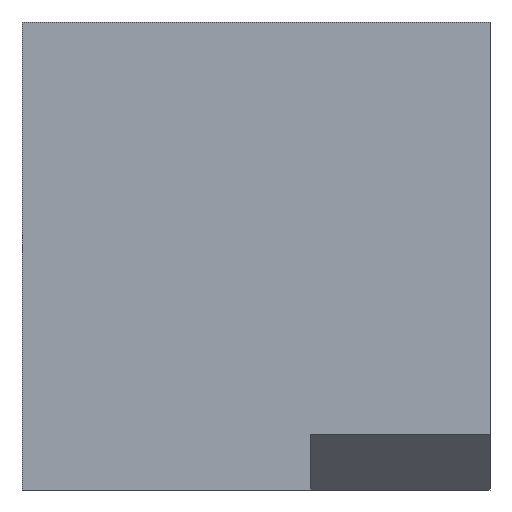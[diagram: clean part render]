
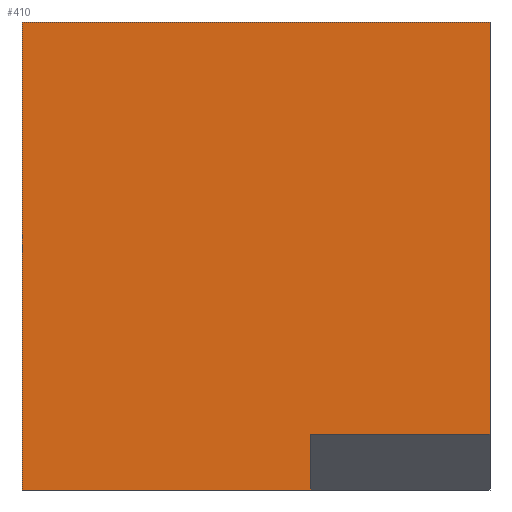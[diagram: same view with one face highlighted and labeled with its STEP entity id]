
A CAD part, left-side view. The second image highlights one B-rep face of the part: STEP entity #410.
In plain terms, the highlighted planar face has unit normal (-1, 0, 0).
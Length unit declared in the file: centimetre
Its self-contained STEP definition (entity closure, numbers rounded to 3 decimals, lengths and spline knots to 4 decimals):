
#17 = CARTESIAN_POINT ( 'NONE',  ( 0., 1000., 1000. ) ) ;
#29 = VECTOR ( 'NONE', #264, 100. ) ;
#30 = CARTESIAN_POINT ( 'NONE',  ( 0., 1000., 0. ) ) ;
#46 = VECTOR ( 'NONE', #286, 100. ) ;
#48 = CARTESIAN_POINT ( 'NONE',  ( 0., 382.8129, 0. ) ) ;
#55 = DIRECTION ( 'NONE',  ( 0., 0., -1. ) ) ;
#81 = EDGE_LOOP ( 'NONE', ( #370, #712, #533, #543, #139, #87 ) ) ;
#84 = LINE ( 'NONE', #206, #239 ) ;
#87 = ORIENTED_EDGE ( 'NONE', *, *, #277, .T. ) ;
#103 = DIRECTION ( 'NONE',  ( 0., -1., 0. ) ) ;
#112 = CARTESIAN_POINT ( 'NONE',  ( 0., 1000., 1000. ) ) ;
#115 = DIRECTION ( 'NONE',  ( 1., 0., 0. ) ) ;
#139 = ORIENTED_EDGE ( 'NONE', *, *, #167, .T. ) ;
#157 = LINE ( 'NONE', #641, #164 ) ;
#164 = VECTOR ( 'NONE', #103, 100. ) ;
#167 = EDGE_CURVE ( 'NONE', #546, #595, #594, .T. ) ;
#187 = PLANE ( 'NONE',  #309 ) ;
#191 = EDGE_CURVE ( 'NONE', #471, #731, #587, .T. ) ;
#203 = CARTESIAN_POINT ( 'NONE',  ( 0., 382.8129, 0. ) ) ;
#206 = CARTESIAN_POINT ( 'NONE',  ( 0., 0., 1000. ) ) ;
#239 = VECTOR ( 'NONE', #327, 100. ) ;
#263 = CARTESIAN_POINT ( 'NONE',  ( 0., 1000., 1000. ) ) ;
#264 = DIRECTION ( 'NONE',  ( 0., -1., 0. ) ) ;
#277 = EDGE_CURVE ( 'NONE', #595, #731, #745, .T. ) ;
#286 = DIRECTION ( 'NONE',  ( 0., 0., -1. ) ) ;
#309 = AXIS2_PLACEMENT_3D ( 'NONE', #17, #115, #536 ) ;
#318 = CARTESIAN_POINT ( 'NONE',  ( 0., 1000., 0. ) ) ;
#327 = DIRECTION ( 'NONE',  ( 0., 0., -1. ) ) ;
#368 = CARTESIAN_POINT ( 'NONE',  ( 0., 0., 119.2037 ) ) ;
#370 = ORIENTED_EDGE ( 'NONE', *, *, #191, .F. ) ;
#378 = DIRECTION ( 'NONE',  ( 0., -1., 0. ) ) ;
#384 = VERTEX_POINT ( 'NONE', #722 ) ;
#397 = CARTESIAN_POINT ( 'NONE',  ( 0., 382.8129, 119.2037 ) ) ;
#410 = ADVANCED_FACE ( 'NONE', ( #717 ), #187, .F. ) ;
#471 = VERTEX_POINT ( 'NONE', #397 ) ;
#498 = VECTOR ( 'NONE', #55, 100. ) ;
#501 = CARTESIAN_POINT ( 'NONE',  ( 0., 1000., 1000. ) ) ;
#524 = EDGE_CURVE ( 'NONE', #471, #662, #157, .T. ) ;
#533 = ORIENTED_EDGE ( 'NONE', *, *, #589, .F. ) ;
#536 = DIRECTION ( 'NONE',  ( 0., 0., -1. ) ) ;
#543 = ORIENTED_EDGE ( 'NONE', *, *, #580, .F. ) ;
#546 = VERTEX_POINT ( 'NONE', #501 ) ;
#580 = EDGE_CURVE ( 'NONE', #546, #384, #732, .T. ) ;
#587 = LINE ( 'NONE', #48, #46 ) ;
#589 = EDGE_CURVE ( 'NONE', #384, #662, #84, .T. ) ;
#594 = LINE ( 'NONE', #112, #498 ) ;
#595 = VERTEX_POINT ( 'NONE', #318 ) ;
#614 = VECTOR ( 'NONE', #378, 100. ) ;
#641 = CARTESIAN_POINT ( 'NONE',  ( 0., 382.8129, 119.2037 ) ) ;
#662 = VERTEX_POINT ( 'NONE', #368 ) ;
#712 = ORIENTED_EDGE ( 'NONE', *, *, #524, .T. ) ;
#717 = FACE_OUTER_BOUND ( 'NONE', #81, .T. ) ;
#722 = CARTESIAN_POINT ( 'NONE',  ( 0., 0., 1000. ) ) ;
#731 = VERTEX_POINT ( 'NONE', #203 ) ;
#732 = LINE ( 'NONE', #263, #614 ) ;
#745 = LINE ( 'NONE', #30, #29 ) ;
